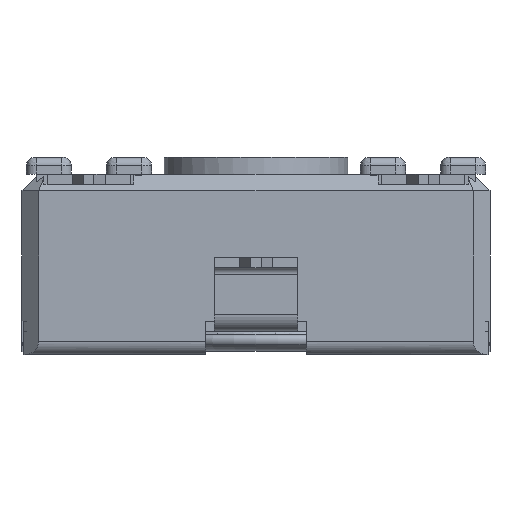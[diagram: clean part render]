
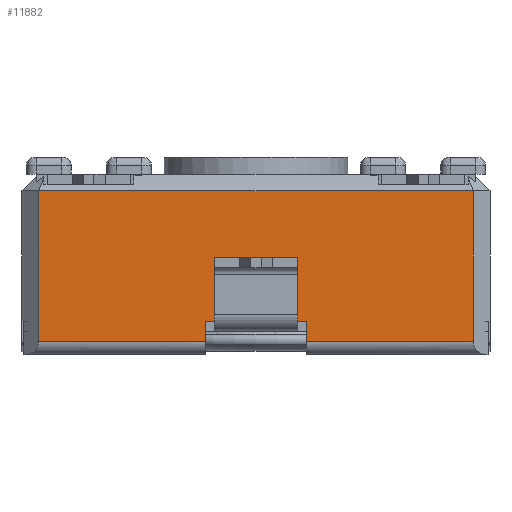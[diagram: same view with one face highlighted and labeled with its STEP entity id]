
A CAD part, front view. The second image highlights one B-rep face of the part: STEP entity #11882.
In plain terms, the highlighted planar face has unit normal (0, -1, 0).
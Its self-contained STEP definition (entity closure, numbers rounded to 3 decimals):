
#675=FACE_OUTER_BOUND('',#1271,.T.);
#1271=EDGE_LOOP('',(#9499,#9500,#9501,#9502,#9503,#9504,#9505,#9506,#9507,
#9508));
#1867=LINE('',#16296,#3119);
#2009=LINE('',#16630,#3261);
#2512=LINE('',#18041,#3764);
#2520=LINE('',#18058,#3772);
#2536=LINE('',#18098,#3788);
#2537=LINE('',#18103,#3789);
#2807=LINE('',#18877,#4059);
#2817=LINE('',#18895,#4069);
#2834=LINE('',#18939,#4086);
#2838=LINE('',#18945,#4090);
#3119=VECTOR('',#13094,10.);
#3261=VECTOR('',#13388,10.);
#3764=VECTOR('',#14561,10.);
#3772=VECTOR('',#14573,10.);
#3788=VECTOR('',#14609,10.);
#3789=VECTOR('',#14616,10.);
#4059=VECTOR('',#15330,10.);
#4069=VECTOR('',#15350,10.);
#4086=VECTOR('',#15391,10.);
#4090=VECTOR('',#15399,10.);
#4382=VERTEX_POINT('',#16294);
#4383=VERTEX_POINT('',#16295);
#4499=VERTEX_POINT('',#16629);
#4927=VERTEX_POINT('',#18038);
#4928=VERTEX_POINT('',#18040);
#4935=VERTEX_POINT('',#18056);
#4949=VERTEX_POINT('',#18097);
#4950=VERTEX_POINT('',#18101);
#5200=VERTEX_POINT('',#18876);
#5208=VERTEX_POINT('',#18937);
#5465=EDGE_CURVE('',#4382,#4383,#1867,.T.);
#5638=EDGE_CURVE('',#4499,#4382,#2009,.T.);
#6282=EDGE_CURVE('',#4927,#4928,#2512,.T.);
#6291=EDGE_CURVE('',#4927,#4935,#2520,.T.);
#6311=EDGE_CURVE('',#4499,#4949,#2536,.T.);
#6314=EDGE_CURVE('',#4949,#4950,#2537,.T.);
#6691=EDGE_CURVE('',#5200,#4928,#2807,.T.);
#6701=EDGE_CURVE('',#4383,#5200,#2817,.T.);
#6719=EDGE_CURVE('',#5208,#4935,#2834,.T.);
#6723=EDGE_CURVE('',#4950,#5208,#2838,.T.);
#9499=ORIENTED_EDGE('',*,*,#6282,.F.);
#9500=ORIENTED_EDGE('',*,*,#6291,.T.);
#9501=ORIENTED_EDGE('',*,*,#6719,.F.);
#9502=ORIENTED_EDGE('',*,*,#6723,.F.);
#9503=ORIENTED_EDGE('',*,*,#6314,.F.);
#9504=ORIENTED_EDGE('',*,*,#6311,.F.);
#9505=ORIENTED_EDGE('',*,*,#5638,.T.);
#9506=ORIENTED_EDGE('',*,*,#5465,.T.);
#9507=ORIENTED_EDGE('',*,*,#6701,.T.);
#9508=ORIENTED_EDGE('',*,*,#6691,.T.);
#10772=PLANE('',#12757);
#11882=ADVANCED_FACE('',(#675),#10772,.T.);
#12757=AXIS2_PLACEMENT_3D('',#18944,#15397,#15398);
#13094=DIRECTION('',(1.,0.,0.));
#13388=DIRECTION('',(1.,0.,0.));
#14561=DIRECTION('',(-1.,0.,0.));
#14573=DIRECTION('',(0.,0.,1.));
#14609=DIRECTION('',(0.,0.,-1.));
#14616=DIRECTION('',(-1.,0.,0.));
#15330=DIRECTION('',(0.,0.,-1.));
#15350=DIRECTION('',(1.,0.,0.));
#15391=DIRECTION('',(1.,0.,0.));
#15397=DIRECTION('center_axis',(0.,-1.,0.));
#15398=DIRECTION('ref_axis',(1.,0.,0.));
#15399=DIRECTION('',(0.,0.,1.));
#16294=CARTESIAN_POINT('',(-11.405,0.3,0.));
#16295=CARTESIAN_POINT('',(-8.905,0.3,0.));
#16296=CARTESIAN_POINT('',(-16.655,0.3,0.));
#16629=CARTESIAN_POINT('',(-11.655,0.3,0.));
#16630=CARTESIAN_POINT('',(-16.655,0.3,0.));
#18038=CARTESIAN_POINT('',(-3.655,0.3,-0.6));
#18040=CARTESIAN_POINT('',(-8.655,0.3,-0.6));
#18041=CARTESIAN_POINT('',(-11.325,0.3,-0.6));
#18056=CARTESIAN_POINT('',(-3.655,0.3,3.9));
#18058=CARTESIAN_POINT('',(-3.655,0.3,0.));
#18097=CARTESIAN_POINT('',(-11.655,0.3,-0.6));
#18098=CARTESIAN_POINT('',(-11.655,0.3,-0.3));
#18101=CARTESIAN_POINT('',(-16.655,0.3,-0.6));
#18103=CARTESIAN_POINT('',(-15.484,0.3,-0.6));
#18876=CARTESIAN_POINT('',(-8.655,0.3,0.));
#18877=CARTESIAN_POINT('',(-8.655,0.3,0.));
#18895=CARTESIAN_POINT('',(-16.655,0.3,0.));
#18937=CARTESIAN_POINT('',(-16.655,0.3,3.9));
#18939=CARTESIAN_POINT('',(-13.405,0.3,3.9));
#18944=CARTESIAN_POINT('Origin',(-16.655,0.3,0.));
#18945=CARTESIAN_POINT('',(-16.655,0.3,0.));
